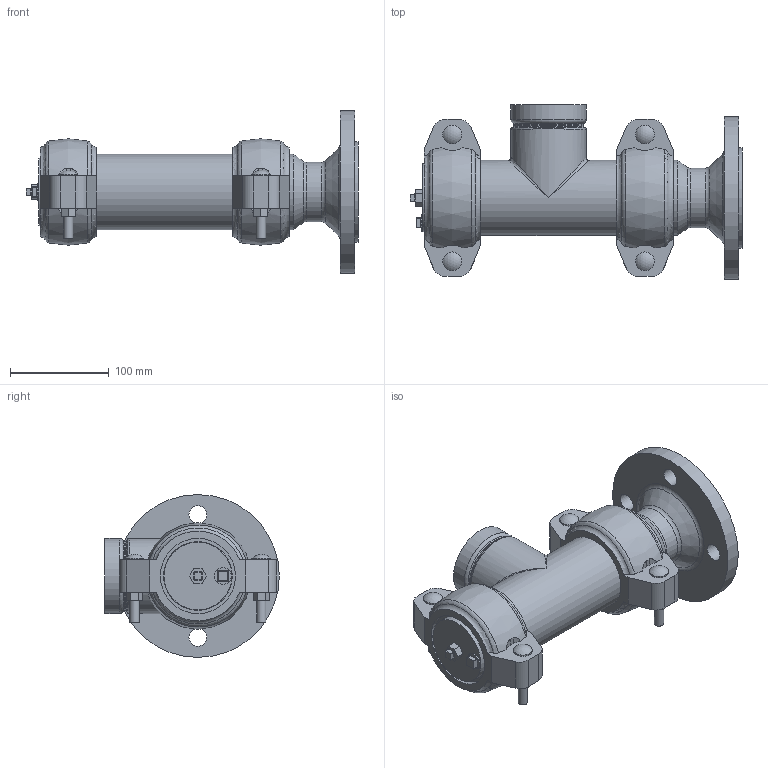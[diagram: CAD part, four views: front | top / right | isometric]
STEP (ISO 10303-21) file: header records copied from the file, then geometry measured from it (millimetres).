
FILE_DESCRIPTION(/* description */ ('VIC STRENGTHIN SUCTION DIFFUSER SERIES E431','CAx-IF Rec.Pracs.---Representation and Presentation of Product Manufacturing Information (PMI)---4.0---2014-10-13'),/* implementation_level */ '2;1');
FILE_NAME(/* name */ 'C:\Users\Vjadhav\AppData\Roaming\Autodesk\ApplicationPlugins\Back Up\Victaulic_SS-StrengThin 100_Suction Diffuser_PN16_Series E431 (ST1xFLG)\Victaulic_SS-StrengThin 100_Suction Diffuser_PN16_02.5 (76.1)x02.0 (65x50).stp',/* time_stamp */ '2020-07-07T13:02:50+06:00',/* author */ ('VJadhav'),/* organization */ ('Victaulic'),/* preprocessor_version */ 'ST-DEVELOPER v17.2',/* originating_system */ 'Autodesk Inventor 2019',/* authorisation */ '');
FILE_SCHEMA (('AP242_MANAGED_MODEL_BASED_3D_ENGINEERING_MIM_LF { 1 0 10303 442 1 1 4 }'));
Length unit declared in the file: inch
Products named in the file (5): E431-02.5 (76.1)x02.0; E492- 02.5 (76.1); E431-02.5 (76.1); E497-02.5 (76.1); E431-02.5 (76.1)_1
Assembly tree (5 placements, depth 2):
  E431-02.5 (76.1)x02.0
    E492- 02.5 (76.1)
    E497-02.5 (76.1)  x2
    E431-02.5 (76.1)
    E431-02.5 (76.1)_1
Bounding box: 336.55 x 177.04 x 165.1 mm (x, y, z)
Volume: 1234153 mm3; surface area: 324796.4 mm2
Topology: 5 solids, 5 shells, 308 faces, 873 edges, 588 vertices
Faces by surface type: plane 115, cylinder 104, torus 59, cone 12, sphere 12, bspline 6
Full cylindrical faces by diameter (mm): 9.525 x8, 17.145 x1, 18.034 x4, 19.05 x4, 49.276 x1, 54.61 x1, 55.88 x1, 60.198 x1, 63.5 x2, 67.158 x3, 69.088 x1, 70.358 x3, 73 x5, 76.2 x11, 101.6 x1, 165.1 x1
Entity records: 8573 total; most frequent: CARTESIAN_POINT 1801, DIRECTION 1475, ORIENTED_EDGE 1300, EDGE_CURVE 650, AXIS2_PLACEMENT_3D 626, VERTEX_POINT 442, CIRCLE 380, EDGE_LOOP 266
